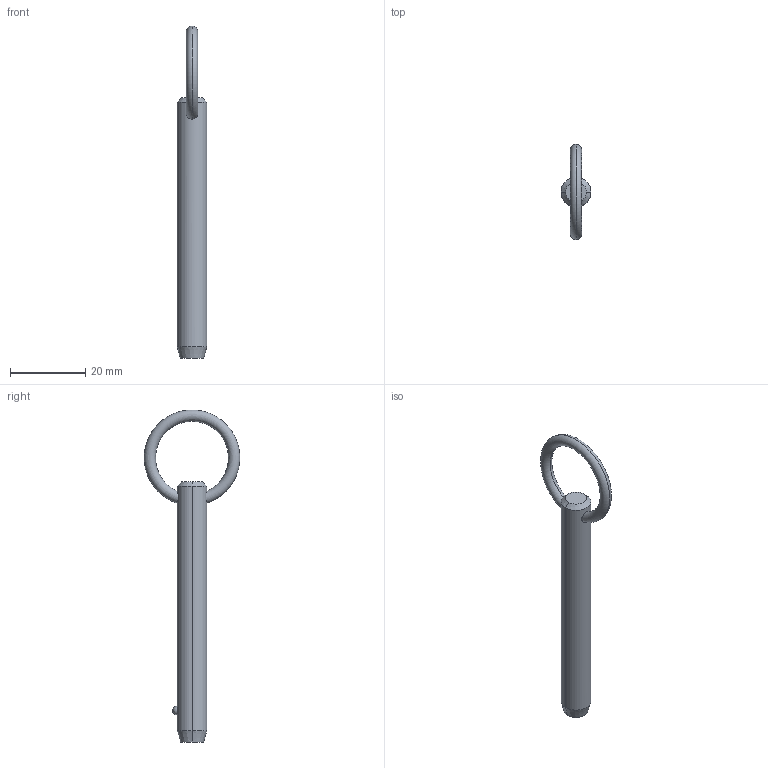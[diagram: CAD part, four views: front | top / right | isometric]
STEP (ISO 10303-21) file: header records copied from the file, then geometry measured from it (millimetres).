
FILE_DESCRIPTION (( 'STEP AP203' ), '1' );
FILE_NAME ('P1250.031-210.step', '2019-07-29T19:50:50', ( '' ), ( '' ), 'SwSTEP 2.0', 'SolidWorks 2017', '' );
FILE_SCHEMA (( 'CONFIG_CONTROL_DESIGN' ));
Length unit declared in the file: millimetre
Products named in the file (1): P1250.031-210
Bounding box: 7.93 x 25.36 x 88.21 mm (x, y, z)
Volume: 3816.8 mm3; surface area: 2358.6 mm2
Topology: 1 solids, 1 shells, 12 faces, 28 edges, 17 vertices
Faces by surface type: cone 4, torus 2, sphere 2, cylinder 2, plane 2
Entity records: 509 total; most frequent: CARTESIAN_POINT 176, DIRECTION 56, ORIENTED_EDGE 48, AXIS2_PLACEMENT_3D 25, EDGE_CURVE 24, VERTEX_POINT 15, EDGE_LOOP 15, ADVANCED_FACE 12
